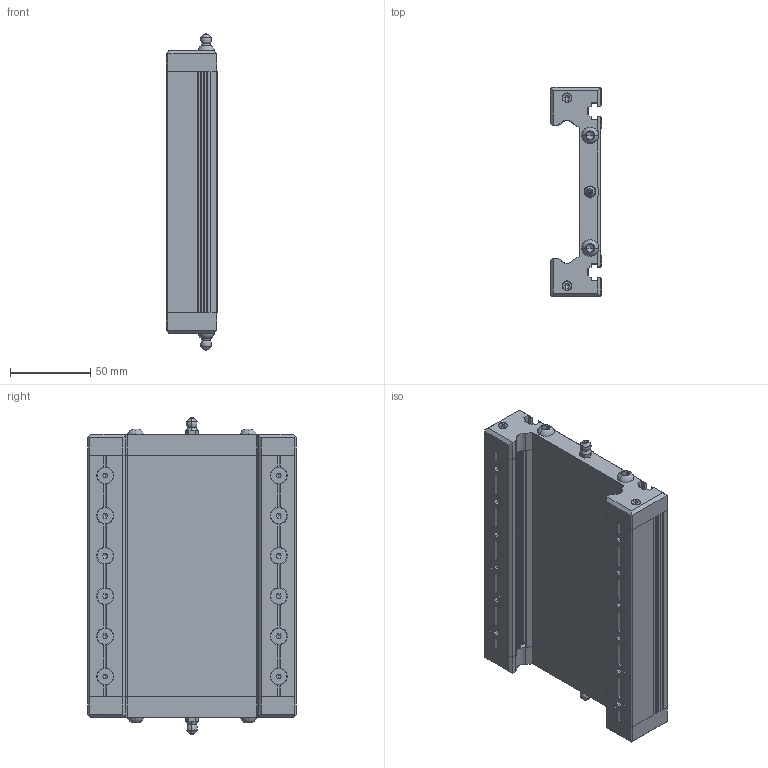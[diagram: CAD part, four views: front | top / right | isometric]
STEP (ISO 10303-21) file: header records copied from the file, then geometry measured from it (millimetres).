
FILE_DESCRIPTION (( 'STEP AP203' ), '1' );
FILE_NAME ('Wellenschlitten WS 3_-_WS 3 - L 150.step', '2005-06-07T09:56:00', ( ' ' ), ( ' ' ), 'SwSTEP 2.0', 'SolidWorks 2005143', '' );
FILE_SCHEMA (( 'CONFIG_CONTROL_DESIGN' ));
Length unit declared in the file: millimetre
Products named in the file (1): Wellenschlitten WS 3_-_WS 3 - L 150
Bounding box: 32 x 130 x 197.1 mm (x, y, z)
Volume: 357430.7 mm3; surface area: 120560.3 mm2
Topology: 1 solids, 4 shells, 742 faces, 2004 edges, 1278 vertices
Faces by surface type: plane 518, cylinder 160, cone 44, torus 16, sphere 4
Entity records: 23375 total; most frequent: CARTESIAN_POINT 5061, ORIENTED_EDGE 3928, DIRECTION 3642, EDGE_CURVE 1964, VECTOR 1300, LINE 1300, VERTEX_POINT 1278, AXIS2_PLACEMENT_3D 1171
